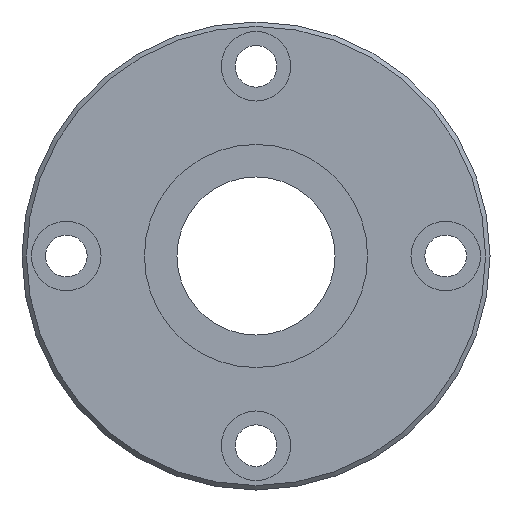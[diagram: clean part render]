
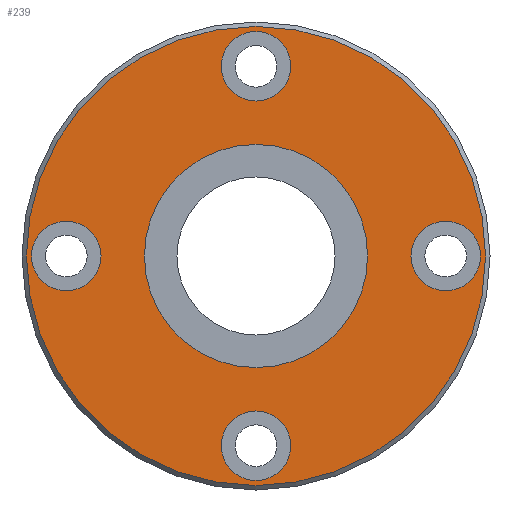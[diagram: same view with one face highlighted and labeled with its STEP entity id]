
A CAD part, left-side view. The second image highlights one B-rep face of the part: STEP entity #239.
In plain terms, the highlighted planar face has unit normal (-1, 0, 0).
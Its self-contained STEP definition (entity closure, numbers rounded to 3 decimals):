
#164=CARTESIAN_POINT('',(0.0,0.,36.3));
#165=VERTEX_POINT('',#164);
#166=CARTESIAN_POINT('',(0.0,0.0,0.0));
#167=DIRECTION('',(1.0,0.0,0.0));
#168=DIRECTION('',(0.0,0.0,-1.0));
#169=AXIS2_PLACEMENT_3D('',#166,#167,#168);
#170=CIRCLE('',#169,36.3);
#171=EDGE_CURVE('',#165,#165,#170,.T.);
#176=CARTESIAN_POINT('',(0.0,0.0,20.075));
#177=DIRECTION('',(-1.0,0.0,0.0));
#178=DIRECTION('',(0.0,0.0,1.0));
#179=AXIS2_PLACEMENT_3D('',#176,#177,#178);
#180=PLANE('',#179);
#181=ORIENTED_EDGE('',*,*,#171,.F.);
#182=EDGE_LOOP('',(#181));
#183=FACE_OUTER_BOUND('',#182,.T.);
#184=CARTESIAN_POINT('',(0.0,0.0,17.65));
#185=VERTEX_POINT('',#184);
#186=CARTESIAN_POINT('',(0.0,0.0,0.0));
#187=DIRECTION('',(-1.0,0.0,0.0));
#188=DIRECTION('',(0.0,0.0,1.0));
#189=AXIS2_PLACEMENT_3D('',#186,#187,#188);
#190=CIRCLE('',#189,17.65);
#191=EDGE_CURVE('',#185,#185,#190,.T.);
#192=ORIENTED_EDGE('',*,*,#191,.F.);
#193=EDGE_LOOP('',(#192));
#194=FACE_BOUND('',#193,.T.);
#195=CARTESIAN_POINT('',(0.0,-24.5,0.));
#196=VERTEX_POINT('',#195);
#197=CARTESIAN_POINT('',(0.0,-30.0,0.));
#198=DIRECTION('',(1.0,0.0,0.0));
#199=DIRECTION('',(0.0,1.0,0.0));
#200=AXIS2_PLACEMENT_3D('',#197,#198,#199);
#201=CIRCLE('',#200,5.5);
#202=EDGE_CURVE('',#196,#196,#201,.T.);
#203=ORIENTED_EDGE('',*,*,#202,.T.);
#204=EDGE_LOOP('',(#203));
#205=FACE_BOUND('',#204,.T.);
#206=CARTESIAN_POINT('',(0.0,35.5,0.));
#207=VERTEX_POINT('',#206);
#208=CARTESIAN_POINT('',(0.0,30.0,0.));
#209=DIRECTION('',(1.0,0.0,0.0));
#210=DIRECTION('',(0.0,1.0,0.0));
#211=AXIS2_PLACEMENT_3D('',#208,#209,#210);
#212=CIRCLE('',#211,5.5);
#213=EDGE_CURVE('',#207,#207,#212,.T.);
#214=ORIENTED_EDGE('',*,*,#213,.T.);
#215=EDGE_LOOP('',(#214));
#216=FACE_BOUND('',#215,.T.);
#217=CARTESIAN_POINT('',(0.0,5.5,30.0));
#218=VERTEX_POINT('',#217);
#219=CARTESIAN_POINT('',(0.0,0.,30.0));
#220=DIRECTION('',(1.0,0.0,0.0));
#221=DIRECTION('',(0.0,1.0,0.0));
#222=AXIS2_PLACEMENT_3D('',#219,#220,#221);
#223=CIRCLE('',#222,5.5);
#224=EDGE_CURVE('',#218,#218,#223,.T.);
#225=ORIENTED_EDGE('',*,*,#224,.T.);
#226=EDGE_LOOP('',(#225));
#227=FACE_BOUND('',#226,.T.);
#228=CARTESIAN_POINT('',(0.0,5.5,-30.0));
#229=VERTEX_POINT('',#228);
#230=CARTESIAN_POINT('',(0.0,0.,-30.0));
#231=DIRECTION('',(1.0,0.0,0.0));
#232=DIRECTION('',(0.0,1.0,0.0));
#233=AXIS2_PLACEMENT_3D('',#230,#231,#232);
#234=CIRCLE('',#233,5.5);
#235=EDGE_CURVE('',#229,#229,#234,.T.);
#236=ORIENTED_EDGE('',*,*,#235,.T.);
#237=EDGE_LOOP('',(#236));
#238=FACE_BOUND('',#237,.T.);
#239=ADVANCED_FACE('',(#183,#194,#205,#216,#227,#238),#180,.T.);
